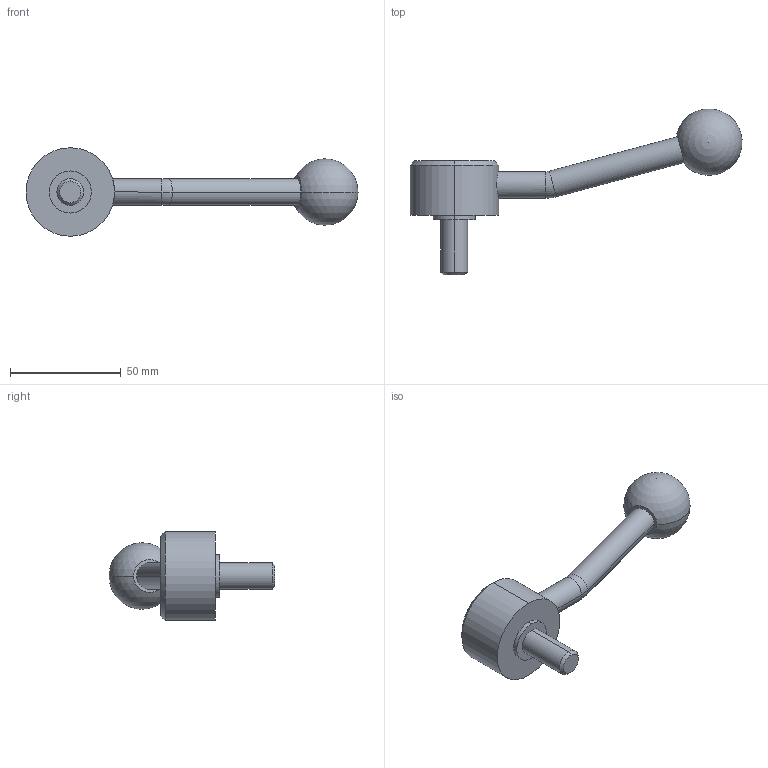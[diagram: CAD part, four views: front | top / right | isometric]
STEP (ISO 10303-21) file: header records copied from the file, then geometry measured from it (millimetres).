
FILE_DESCRIPTION (( 'STEP AP214' ), '1' );
FILE_NAME ('125.5-40-M12-25-E.step', '2020-02-18T11:37:04', ( '' ), ( '' ), 'SwSTEP 2.0', 'SolidWorks 2019', '' );
FILE_SCHEMA (( 'AUTOMOTIVE_DESIGN' ));
Length unit declared in the file: millimetre
Products named in the file (1): 125.5-40-M12-25-E
Bounding box: 149.94 x 74.94 x 40 mm (x, y, z)
Volume: 57575.2 mm3; surface area: 12277.6 mm2
Topology: 1 solids, 1 shells, 26 faces, 55 edges, 34 vertices
Faces by surface type: cylinder 12, plane 6, cone 4, torus 2, sphere 2
Entity records: 850 total; most frequent: CARTESIAN_POINT 192, DIRECTION 134, ORIENTED_EDGE 100, AXIS2_PLACEMENT_3D 59, EDGE_CURVE 50, CIRCLE 32, EDGE_LOOP 31, VERTEX_POINT 31
